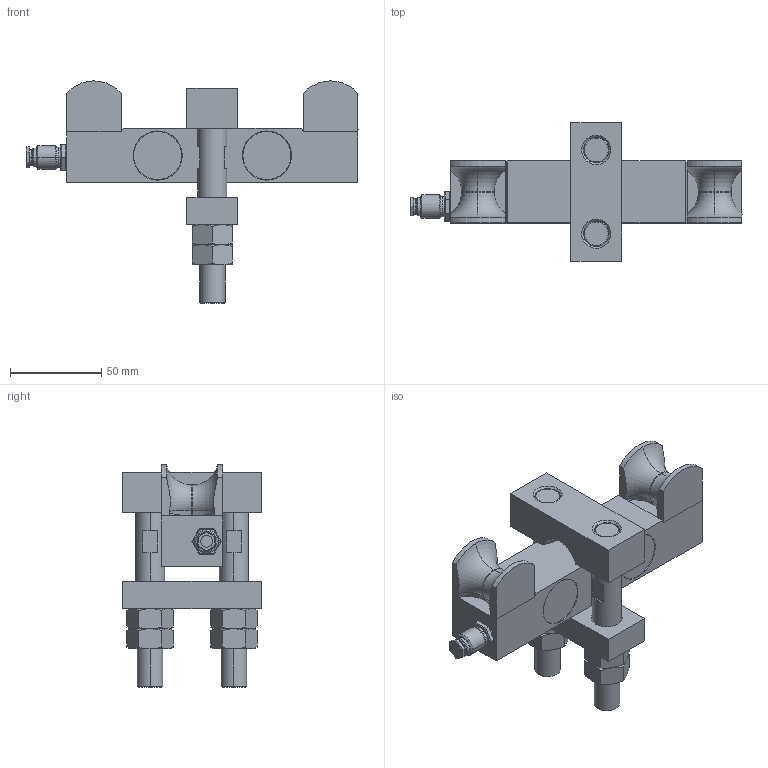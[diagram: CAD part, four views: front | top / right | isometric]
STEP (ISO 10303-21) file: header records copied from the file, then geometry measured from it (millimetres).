
FILE_DESCRIPTION((''),'1');
FILE_NAME('LULA_10000_kg.step','2018-01-22T13:11:19',(''),(''),'','','');
FILE_SCHEMA(('AUTOMOTIVE_DESIGN { 1 0 10303 214 1 1 1 1 }'));
Products named in the file (11): LULA body 01; LULA body 02; LULA screw 01; LULA part 02; LULA 10000_kg; LULA part 03; LULA plate 01; LULA screw 02; LULA plate 03; LULA nut 01; LULA cable gland 01
Assembly tree (18 placements, depth 3):
  LULA 10000_kg
    LULA body 01
      LULA body 02
      LULA screw 01  x2
      LULA part 02  x4
    LULA part 03
      LULA plate 01
      LULA screw 02  x2
      LULA plate 03
      LULA nut 01  x4
    LULA cable gland 01
Bounding box: 182.3 x 76 x 122 mm (x, y, z)
Volume: 305536.7 mm3; surface area: 78109 mm2
Topology: 18 solids, 18 shells, 467 faces, 1041 edges, 633 vertices
Faces by surface type: plane 172, cone 130, cylinder 114, torus 34, bspline 9, extrusion 8
Entity records: 17209 total; most frequent: CARTESIAN_POINT 7620, DIRECTION 1514, ORIENTED_EDGE 1358, EDGE_CURVE 679, AXIS2_PLACEMENT_3D 597, VERTEX_POINT 418, EDGE_LOOP 333, VECTOR 320
